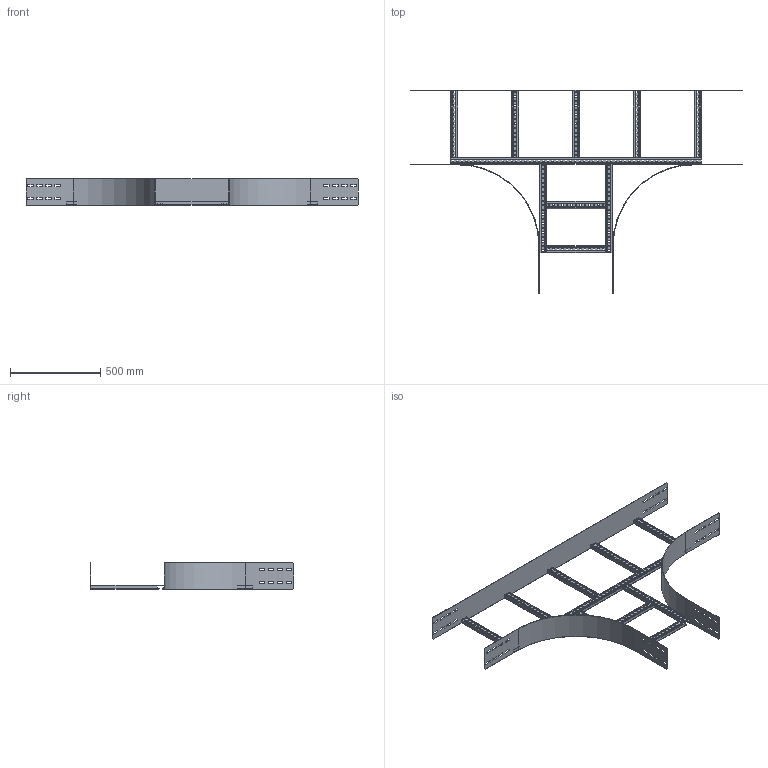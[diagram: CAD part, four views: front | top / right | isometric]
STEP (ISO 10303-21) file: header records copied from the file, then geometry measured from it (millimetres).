
FILE_DESCRIPTION(('Creo Elements/Direct Modeling STEP Export'),'2;1');
FILE_NAME('WPTP15-40-45.stp','2016-06-03T 8:38:34',(''),(''),'PTC Creo Elements/Direct Modeling STEP processor for AP214 (Solid Model)','PTC Creo Elements/Direct Modeling 19.0C 15-Aug-2015 (C) Parametric Technology GmbH','');
FILE_SCHEMA(('AUTOMOTIVE_DESIGN { 1 0 10303 214 1 1 1 1 }'));
Length unit declared in the file: millimetre
Products named in the file (7): WPKSP1-40; WPTPS40.2.1.1; WPBI_150.1; WPKS40.1; WPKSP2_300.1; WPAAG_150-40; WPTP15-40-45
Assembly tree (13 placements, depth 2):
  WPTP15-40-45
    WPTPS40.2.1.1  x5
    WPKSP2_300.1  x2
    WPKS40.1  x2
    WPAAG_150-40
    WPBI_150.1  x2
    WPKSP1-40
Bounding box: 1835 x 1123 x 145 mm (x, y, z)
Volume: 2532260.2 mm3; surface area: 2234410.3 mm2
Topology: 13 solids, 13 shells, 1432 faces, 4218 edges, 2812 vertices
Faces by surface type: plane 840, cylinder 592
Entity records: 25153 total; most frequent: CARTESIAN_POINT 4326, ORIENTED_EDGE 4320, DIRECTION 4194, EDGE_CURVE 2160, VECTOR 1578, LINE 1578, VERTEX_POINT 1440, AXIS2_PLACEMENT_3D 1308
